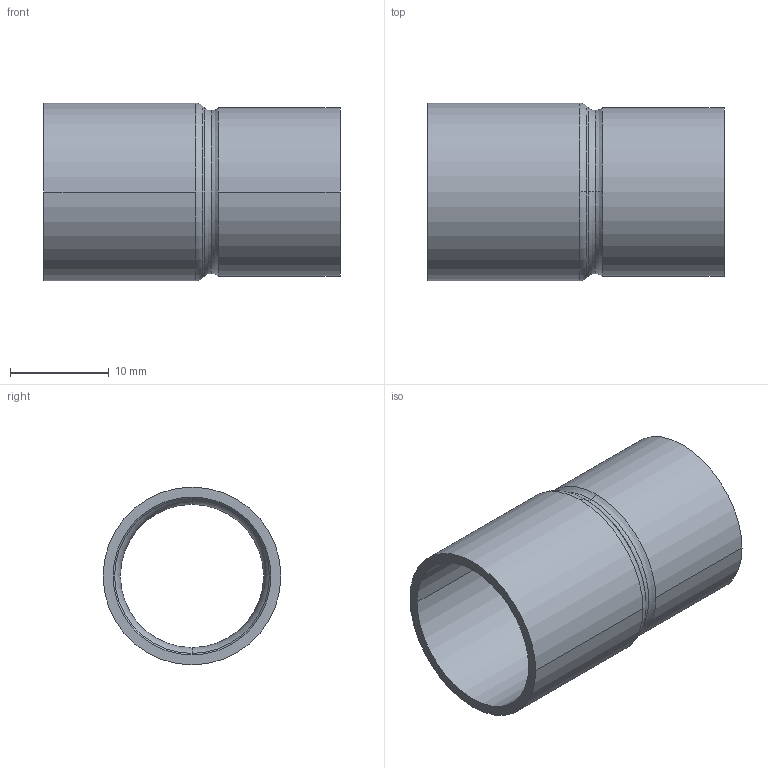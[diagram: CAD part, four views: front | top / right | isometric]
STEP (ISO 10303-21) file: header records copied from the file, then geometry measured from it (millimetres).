
FILE_DESCRIPTION((''),'2;1');
FILE_NAME('G:\Technics\CAD\Bauteile\Serie 15243\152431815.stp','2005-10-21T12:49:35',('boden'),(''),'Autodesk Inventor 8','Autodesk Inventor 8','');
FILE_SCHEMA(('AUTOMOTIVE_DESIGN { 1 0 10303 214 1 1 1 1 }'));
Length unit declared in the file: millimetre
Products named in the file (1): 152431815
Bounding box: 30 x 18 x 18 mm (x, y, z)
Volume: 1574.9 mm3; surface area: 3254.2 mm2
Topology: 1 solids, 1 shells, 24 faces, 60 edges, 38 vertices
Faces by surface type: cylinder 8, torus 6, bspline 4, cone 4, plane 2
Entity records: 931 total; most frequent: CARTESIAN_POINT 299, DIRECTION 150, ORIENTED_EDGE 120, AXIS2_PLACEMENT_3D 69, EDGE_CURVE 60, CIRCLE 48, VERTEX_POINT 38, EDGE_LOOP 26
